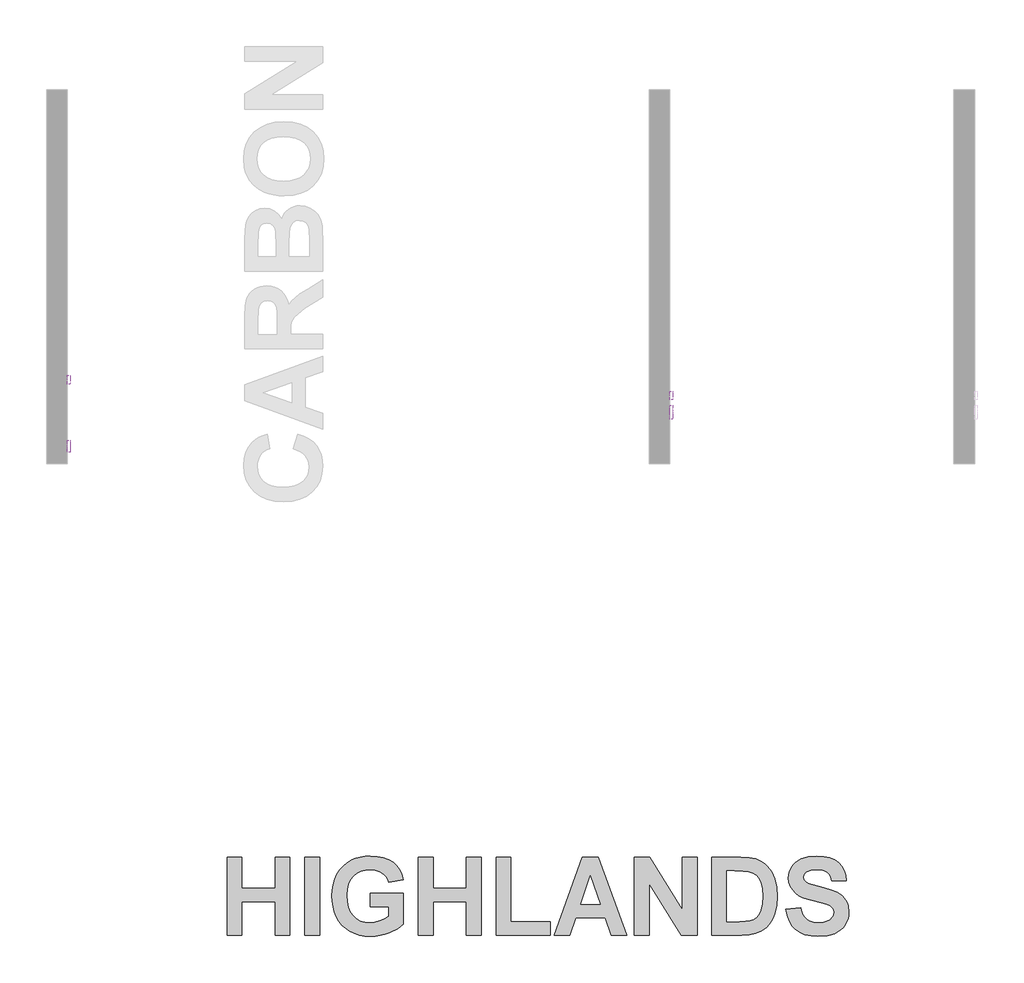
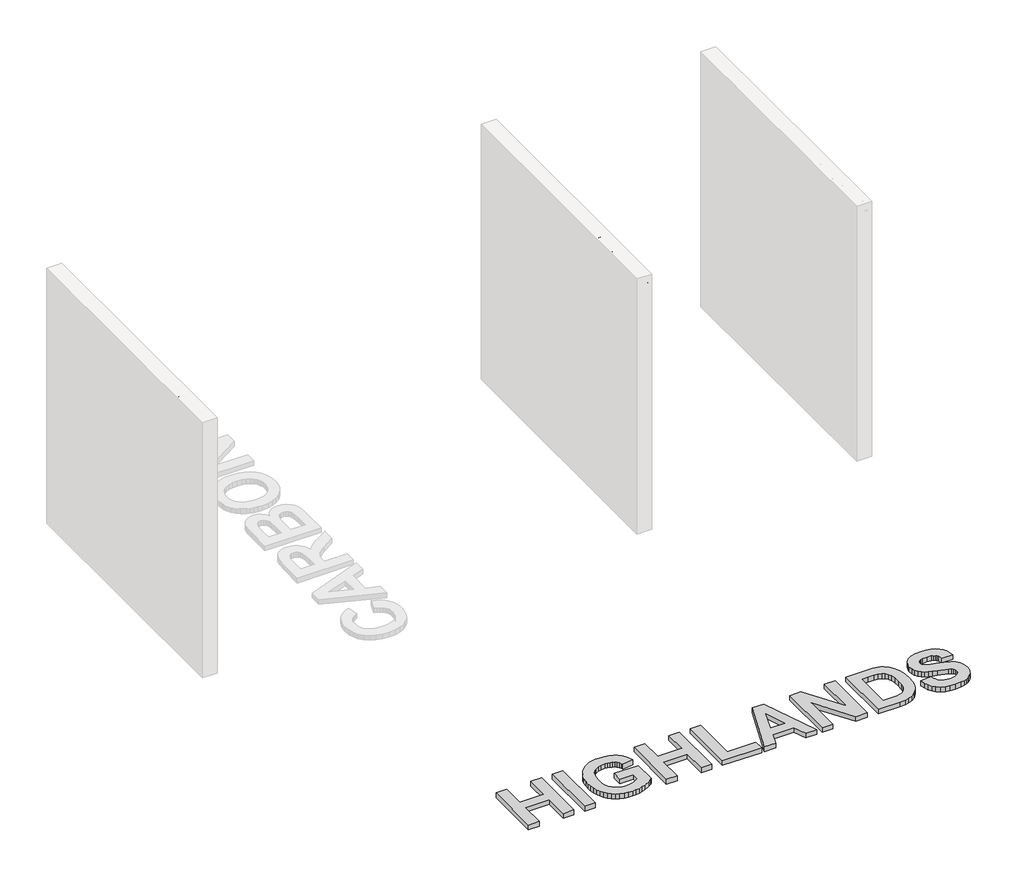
# One storey, part 3 of 10: 5 proxies.
"""IFC4 building model written with IfcOpenShell, lengths in millimetres."""

from ifc_helpers import new_model, si_unit, frame, origin, origin_with_axes, place, context, project, spatial, polyline, outline, extrude, element, save

model = new_model("IFC4")

# Units and contexts
model_context = context("Model", 3, world=origin())
ifc_project = project(units=[si_unit("LENGTHUNIT", "METRE", prefix="MILLI")], contexts=[model_context])

# Site, building, storey
site = spatial("IfcSite", under=ifc_project)
building = spatial("IfcBuilding", under=site)
storey = spatial("IfcBuildingStorey", under=building, Name="PORTOBELLO - SHOWROOM", Elevation=0.0)

# Proxies
placement = place(None, origin())
element("IfcBuildingElementProxy", 1, Name="10mm Arial", ObjectType="10mm Arial", at=placement, inside=storey, context=model_context, shape_type="SweptSolid", body=[
    extrude(outline(polyline([(-9137.3091823, 2554.1836467), (-9124.7521435, 2550.9462851), (-9130.5462849, 2536.3137787), (-9139.6391016, 2525.6237411), (-9151.5830037, 2519.0846386), (-9165.9304015, 2516.9049378), (-9180.4954628, 2518.5542754), (-9192.0622859, 2523.5022883), (-9200.928242, 2531.5772981), (-9207.3907024, 2542.6076265), (-9212.6514149, 2569.4630122), (-9211.1645585, 2584.110847), (-9206.7039893, 2596.7598562), (-9199.5026993, 2607.0084355), (-9189.7936803, 2614.4549802), (-9178.2789738, 2618.9891258), (-9165.6606214, 2620.5005077), (-9151.8926377, 2618.5446017), (-9140.5097556, 2612.6768839), (-9131.8675944, 2603.2591048), (-9126.3217734, 2590.6530151), (-9138.8788121, 2587.6609082), (-9149.179508, 2603.0996893), (-9166.1511307, 2607.9434689), (-9185.7960293, 2602.5723918), (-9196.8938028, 2588.1514175), (-9200.0943761, 2569.4875377), (-9196.3051916, 2547.8560763), (-9184.5084423, 2534.0359761), (-9167.1812003, 2529.4619766), (-9156.6996291, 2531.0193437), (-9147.9654974, 2535.691445), (-9141.3712127, 2543.4292297), (-9137.3091823, 2554.1836467)])), frame((-30275.742133, 0.0, 0.0), z_axis=(1.0, 0.0, 0.0), x_axis=(0.0, 1.0, 0.0)), (0.0, 0.0, 1.0), 20.0),
    extrude(outline(polyline([(-9061.9669497, 2527.8923467), (-9074.1438437, 2519.3820099), (-9087.596062, 2516.9049378), (-9098.0898959, 2518.3948599), (-9105.8307462, 2522.8646261), (-9110.6040151, 2529.6520489), (-9112.1951048, 2538.0949407), (-9109.7916091, 2548.0277546), (-9103.4763015, 2555.2382417), (-9094.6839218, 2559.3585201), (-9083.8191402, 2561.246981), (-9062.0405261, 2565.563463), (-9061.9669497, 2568.3593662), (-9065.4250404, 2577.6299925), (-9079.3064544, 2581.2597615), (-9092.010646, 2578.8440031), (-9098.0684361, 2570.2723526), (-9110.6254749, 2571.8419824), (-9105.1930841, 2584.1047156), (-9094.2547261, 2591.2906772), (-9077.6877736, 2593.8168003), (-9062.4697217, 2591.5849828), (-9053.8735458, 2585.9809138), (-9050.0230476, 2577.4583142), (-9049.4099109, 2566.4709053), (-9049.4099109, 2550.8481832), (-9048.7722488, 2529.0327809), (-9046.2706512, 2518.4745677), (-9058.82769, 2518.4745677), (-9061.9669497, 2527.8923467)]), holes=[polyline([(-9061.9669497, 2553.0064243), (-9082.2249849, 2549.1559261), (-9093.0284528, 2547.1203124), (-9097.9212833, 2543.8093744), (-9099.638066, 2538.9778575), (-9095.8979324, 2532.1843033), (-9084.9227862, 2529.4619766), (-9072.2185946, 2532.4663462), (-9064.0270889, 2539.738147), (-9062.0405261, 2549.4502317), (-9061.9669497, 2553.0064243)])]), frame((-30275.742133, 0.0, 0.0), z_axis=(1.0, 0.0, 0.0), x_axis=(0.0, 1.0, 0.0)), (0.0, 0.0, 1.0), 20.0),
    extrude(outline(polyline([(-9032.1439826, 2518.4745677), (-9032.1439826, 2592.2471704), (-9021.1565737, 2592.2471704), (-9021.1565737, 2581.3333379), (-9013.3574754, 2591.3887791), (-9005.5093262, 2593.8168003), (-8992.9032364, 2589.9417766), (-8997.0970912, 2578.6845875), (-9005.9262591, 2581.2597615), (-9013.0263816, 2578.7826894), (-9017.5513301, 2571.9155588), (-9019.5869438, 2557.24933), (-9019.5869438, 2518.4745677), (-9032.1439826, 2518.4745677)])), frame((-30275.742133, 0.0, 0.0), z_axis=(1.0, 0.0, 0.0), x_axis=(0.0, 1.0, 0.0)), (0.0, 0.0, 1.0), 20.0),
    extrude(outline(polyline([(-8972.4980485, 2518.4745677), (-8985.0550872, 2518.4745677), (-8985.0550872, 2618.9308778), (-8972.4980485, 2618.9308778), (-8972.4980485, 2581.6766944), (-8963.7056688, 2590.7817738), (-8952.7795735, 2593.8168003), (-8940.1980093, 2591.0822108), (-8930.4368737, 2583.3934771), (-8924.4403971, 2571.4373122), (-8922.2698934, 2556.464515), (-8924.5170392, 2539.7013588), (-8931.2584768, 2527.2301591), (-8941.1514368, 2519.4862431), (-8952.8531499, 2516.9049378), (-8964.0183685, 2520.2342699), (-8972.4980485, 2530.222266), (-8972.4980485, 2518.4745677)]), holes=[polyline([(-8972.4980485, 2555.8759038), (-8969.0644832, 2538.3156699), (-8962.4855268, 2531.6753999), (-8953.9322704, 2529.4619766), (-8946.6849951, 2531.0929201), (-8940.4923149, 2535.9857506), (-8936.2432778, 2544.1098114), (-8934.8269321, 2555.4344454), (-8936.1850298, 2566.9246264), (-8940.2593229, 2574.9567167), (-8946.2588651, 2579.6840003), (-8953.3927102, 2581.2597615), (-8960.6399855, 2579.628818), (-8966.8326657, 2574.7359875), (-8971.0817028, 2566.7590795), (-8972.4980485, 2555.8759038)])]), frame((-30275.742133, 0.0, 0.0), z_axis=(1.0, 0.0, 0.0), x_axis=(0.0, 1.0, 0.0)), (0.0, 0.0, 1.0), 20.0),
    extrude(outline(polyline([(-8911.2824845, 2555.360869), (-8908.5662891, 2573.1479635), (-8900.4177029, 2585.64982), (-8890.3499989, 2591.7750552), (-8878.2957322, 2593.8168003), (-8865.104097, 2591.3305311), (-8854.5673435, 2583.8717237), (-8847.6603591, 2572.0289891), (-8845.3580309, 2556.3909386), (-8849.4292583, 2534.0482388), (-8861.2873213, 2521.4053609), (-8878.2957322, 2516.9049378), (-8891.646783, 2519.3820099), (-8902.1712737, 2526.8132262), (-8909.0046818, 2538.9042811), (-8911.2824845, 2555.360869)]), holes=[polyline([(-8898.7254457, 2555.3853945), (-8897.2723118, 2544.0209065), (-8892.9129102, 2535.924437), (-8886.3523479, 2531.0775917), (-8878.2957322, 2529.4619766), (-8870.2759047, 2531.0867887), (-8863.7276052, 2535.9612252), (-8859.3682036, 2544.1649937), (-8857.9150697, 2555.777802), (-8859.3774006, 2566.8111961), (-8863.7643934, 2574.7973011), (-8870.32189, 2579.6441464), (-8878.2957322, 2581.2597615), (-8886.3523479, 2579.6502778), (-8892.9129102, 2574.8218266), (-8897.2723118, 2566.7437511), (-8898.7254457, 2555.3853945)])]), frame((-30275.742133, 0.0, 0.0), z_axis=(1.0, 0.0, 0.0), x_axis=(0.0, 1.0, 0.0)), (0.0, 0.0, 1.0), 20.0),
    extrude(outline(polyline([(-8831.2313623, 2518.4745677), (-8831.2313623, 2592.2471704), (-8818.6743235, 2592.2471704), (-8818.6743235, 2581.9464746), (-8809.0726035, 2590.8492188), (-8795.9637417, 2593.8168003), (-8784.1056787, 2591.4255673), (-8776.0122748, 2585.1470479), (-8772.2476157, 2575.9132098), (-8771.5854282, 2563.773104), (-8771.5854282, 2518.4745677), (-8784.1424669, 2518.4745677), (-8784.1424669, 2562.0808468), (-8785.5894694, 2573.1908831), (-8790.7030292, 2579.0647323), (-8799.3237306, 2581.2597615), (-8812.9476271, 2576.3301428), (-8817.2426494, 2569.1871007), (-8818.6743235, 2557.6172119), (-8818.6743235, 2518.4745677), (-8831.2313623, 2518.4745677)])), frame((-30275.742133, 0.0, 0.0), z_axis=(1.0, 0.0, 0.0), x_axis=(0.0, 1.0, 0.0)), (0.0, 0.0, 1.0), 20.0),
])
element("IfcBuildingElementProxy", 2, Name="10mm Arial", ObjectType="10mm Arial", at=placement, inside=storey, context=model_context, shape_type="SweptSolid", body=[
    extrude(outline(polyline([(-9212.6514149, 2553.0064243), (-9200.0943761, 2553.0064243), (-9196.0476742, 2540.4371228), (-9186.1639112, 2532.4908717), (-9171.1052749, 2529.4619766), (-9157.9841504, 2531.7551077), (-9149.5106018, 2538.0581525), (-9146.7269614, 2546.4826502), (-9148.811626, 2554.3185367), (-9157.3464883, 2560.0207077), (-9175.6302235, 2564.8154363), (-9195.3119102, 2571.0081166), (-9205.9927508, 2580.3523193), (-9209.5121552, 2592.8357816), (-9205.1588849, 2607.0482894), (-9192.4424306, 2617.0792051), (-9173.8276017, 2620.5005077), (-9153.9619739, 2616.9197896), (-9140.7182221, 2606.3983645), (-9135.7395524, 2590.6775406), (-9148.2965912, 2590.6775406), (-9150.601985, 2598.1700706), (-9155.4089765, 2603.5779359), (-9173.3370924, 2607.9434689), (-9191.3142592, 2603.6269868), (-9196.9551164, 2593.2036636), (-9192.9574654, 2584.4971231), (-9172.4541756, 2577.4828397), (-9150.2341031, 2571.1797948), (-9138.0817345, 2561.0017263), (-9134.1699226, 2546.8014813), (-9138.6703457, 2531.7796332), (-9151.6197919, 2520.8167497), (-9170.6147656, 2516.9049378), (-9193.0433046, 2521.123318), (-9207.2312868, 2533.8275096), (-9212.6514149, 2553.0064243)])), frame((-25926.2609603, 0.0, 0.0), z_axis=(1.0, 0.0, 0.0), x_axis=(0.0, 1.0, 0.0)), (0.0, 0.0, 1.0), 20.0),
    extrude(outline(polyline([(-9116.9039943, 2518.4745677), (-9116.9039943, 2592.2471704), (-9104.3469555, 2592.2471704), (-9104.3469555, 2581.9464746), (-9094.7452354, 2590.8492188), (-9081.6363737, 2593.8168003), (-9069.7783107, 2591.4255673), (-9061.6849068, 2585.1470479), (-9057.9202477, 2575.9132098), (-9057.2580601, 2563.773104), (-9057.2580601, 2518.4745677), (-9069.8150989, 2518.4745677), (-9069.8150989, 2562.0808468), (-9071.2621014, 2573.1908831), (-9076.3756612, 2579.0647323), (-9084.9963626, 2581.2597615), (-9098.6202591, 2576.3301428), (-9102.9152814, 2569.1871007), (-9104.3469555, 2557.6172119), (-9104.3469555, 2518.4745677), (-9116.9039943, 2518.4745677)])), frame((-25926.2609603, 0.0, 0.0), z_axis=(1.0, 0.0, 0.0), x_axis=(0.0, 1.0, 0.0)), (0.0, 0.0, 1.0), 20.0),
    extrude(outline(polyline([(-9043.1313915, 2555.360869), (-9040.4151961, 2573.1479635), (-9032.2666099, 2585.64982), (-9022.198906, 2591.7750552), (-9010.1446393, 2593.8168003), (-8996.9530041, 2591.3305311), (-8986.4162506, 2583.8717237), (-8979.5092661, 2572.0289891), (-8977.206938, 2556.3909386), (-8981.2781654, 2534.0482388), (-8993.1362284, 2521.4053609), (-9010.1446393, 2516.9049378), (-9023.49569, 2519.3820099), (-9034.0201808, 2526.8132262), (-9040.8535888, 2538.9042811), (-9043.1313915, 2555.360869)]), holes=[polyline([(-9030.5743528, 2555.3853945), (-9029.1212189, 2544.0209065), (-9024.7618172, 2535.924437), (-9018.201255, 2531.0775917), (-9010.1446393, 2529.4619766), (-9002.1248118, 2531.0867887), (-8995.5765123, 2535.9612252), (-8991.2171106, 2544.1649937), (-8989.7639768, 2555.777802), (-8991.2263077, 2566.8111961), (-8995.6133005, 2574.7973011), (-9002.170797, 2579.6441464), (-9010.1446393, 2581.2597615), (-9018.201255, 2579.6502778), (-9024.7618172, 2574.8218266), (-9029.1212189, 2566.7437511), (-9030.5743528, 2555.3853945)])]), frame((-25926.2609603, 0.0, 0.0), z_axis=(1.0, 0.0, 0.0), x_axis=(0.0, 1.0, 0.0)), (0.0, 0.0, 1.0), 20.0),
    extrude(outline(polyline([(-8950.8420617, 2518.4745677), (-8973.2828634, 2592.2471704), (-8960.2353153, 2592.2471704), (-8947.5065982, 2549.204977), (-8943.705151, 2533.8275096), (-8940.5904167, 2548.6408913), (-8930.4613991, 2592.2471704), (-8915.5008647, 2592.2471704), (-8905.420898, 2548.7635186), (-8902.6495203, 2535.3480885), (-8898.6763948, 2549.4992826), (-8885.9231523, 2592.2471704), (-8872.8265532, 2592.2471704), (-8895.4390332, 2518.4745677), (-8910.6202969, 2518.4745677), (-8920.2588051, 2561.7374903), (-8923.0547083, 2575.2264968), (-8935.4891197, 2518.4745677), (-8950.8420617, 2518.4745677)])), frame((-25926.2609603, 0.0, 0.0), z_axis=(1.0, 0.0, 0.0), x_axis=(0.0, 1.0, 0.0)), (0.0, 0.0, 1.0), 20.0),
])
element("IfcBuildingElementProxy", 3, Name="10mm Arial Narrow", ObjectType="10mm Arial Narrow", at=placement, inside=storey, context=model_context, shape_type="SweptSolid", body=[
    extrude(outline(polyline([(-8720.6286257, 2518.4745677), (-8720.6286257, 2619.1931714), (-8689.3317411, 2619.1931714), (-8673.0360395, 2617.3148507), (-8661.5630534, 2607.8344075), (-8657.273375, 2590.8152987), (-8659.0596834, 2578.7394731), (-8664.4186086, 2569.1130794), (-8674.1623974, 2562.811821), (-8689.1032966, 2560.7114015), (-8710.8816641, 2560.7114015), (-8710.8816641, 2518.4745677), (-8720.6286257, 2518.4745677)]), holes=[polyline([(-8710.8816641, 2572.0828568), (-8687.9103091, 2572.0828568), (-8672.0461137, 2576.613671), (-8667.0203366, 2590.2822617), (-8669.4951511, 2600.4480381), (-8675.47278, 2606.247988), (-8688.1387536, 2607.8217162), (-8710.8816641, 2607.8217162), (-8710.8816641, 2572.0828568)])]), frame((-30275.742133, 0.0, 0.0), z_axis=(1.0, 0.0, 0.0), x_axis=(0.0, 1.0, 0.0)), (0.0, 0.0, 1.0), 20.0),
    extrude(outline(polyline([(-8649.1509069, 2555.0256739), (-8647.1964381, 2571.6164494), (-8641.3330315, 2583.5685342), (-8632.4744647, 2590.7930888), (-8621.5345156, 2593.2012737), (-8610.72148, 2590.7930888), (-8601.8375306, 2583.5685342), (-8595.8979758, 2571.8068198), (-8593.9181242, 2555.7871552), (-8595.8630746, 2538.6252687), (-8601.6979257, 2526.4828135), (-8610.5469739, 2519.2582589), (-8621.5345156, 2516.8500741), (-8632.3951438, 2519.2646046), (-8641.2695747, 2526.5081962), (-8647.1805739, 2538.4666267), (-8649.1509069, 2555.0256739)]), holes=[polyline([(-8639.4039453, 2555.0510566), (-8638.0999084, 2542.4993052), (-8634.1877978, 2533.6280471), (-8628.3466011, 2528.3547886), (-8621.2553058, 2526.5970357), (-8614.5352326, 2528.3706528), (-8608.8431593, 2533.6915039), (-8604.9596042, 2542.5786262), (-8603.6650859, 2555.0510566), (-8604.9691228, 2567.5647339), (-8608.8812333, 2576.4233006), (-8614.7224301, 2581.6965592), (-8621.8137254, 2583.454312), (-8628.5813912, 2581.6870407), (-8634.263946, 2576.3852265), (-8638.1189455, 2567.5171413), (-8639.4039453, 2555.0510566)])]), frame((-30275.742133, 0.0, 0.0), z_axis=(1.0, 0.0, 0.0), x_axis=(0.0, 1.0, 0.0)), (0.0, 0.0, 1.0), 20.0),
    extrude(outline(polyline([(-8522.4404054, 2526.5970357), (-8520.8159118, 2516.8500741), (-8528.1768985, 2516.8500741), (-8536.4516628, 2518.9695306), (-8540.766724, 2524.7694804), (-8541.9343288, 2539.4153056), (-8541.9343288, 2581.8298184), (-8550.0567968, 2581.8298184), (-8550.0567968, 2585.0788056), (-8551.6812904, 2580.2053248), (-8559.2453388, 2581.8298184), (-8565.3244985, 2579.5073002), (-8569.1953621, 2573.0220171), (-8571.1752137, 2557.6147106), (-8571.1752137, 2518.4745677), (-8580.9221754, 2518.4745677), (-8580.9221754, 2591.5767801), (-8571.1752137, 2591.5767801), (-8571.1752137, 2581.8805838), (-8564.9310664, 2590.967595), (-8558.5346228, 2593.2012737), (-8550.0567968, 2591.5767801), (-8541.9343288, 2591.5767801), (-8541.9343288, 2607.8217162), (-8532.1873671, 2615.9441842), (-8532.1873671, 2591.5767801), (-8522.4404054, 2591.5767801), (-8522.4404054, 2581.8298184), (-8532.1873671, 2581.8298184), (-8532.1873671, 2537.1816269), (-8531.3243549, 2529.1860724), (-8526.7047012, 2526.5970357), (-8522.4404054, 2526.5970357)])), frame((-30275.742133, 0.0, 0.0), z_axis=(1.0, 0.0, 0.0), x_axis=(0.0, 1.0, 0.0)), (0.0, 0.0, 1.0), 20.0),
    extrude(outline(polyline([(-8515.942431, 2555.0256739), (-8513.9879621, 2571.6164494), (-8508.1245555, 2583.5685342), (-8499.2659888, 2590.7930888), (-8488.3260397, 2593.2012737), (-8477.5130041, 2590.7930888), (-8468.6290547, 2583.5685342), (-8462.6894999, 2571.8068198), (-8460.7096483, 2555.7871552), (-8462.6545987, 2538.6252687), (-8468.4894497, 2526.4828135), (-8477.3384979, 2519.2582589), (-8488.3260397, 2516.8500741), (-8499.1866678, 2519.2646046), (-8508.0610987, 2526.5081962), (-8513.9720979, 2538.4666267), (-8515.942431, 2555.0256739)]), holes=[polyline([(-8506.1954694, 2555.0510566), (-8504.8914325, 2542.4993052), (-8500.9793219, 2533.6280471), (-8495.1381252, 2528.3547886), (-8488.0468298, 2526.5970357), (-8481.3267567, 2528.3706528), (-8475.6346833, 2533.6915039), (-8471.7511283, 2542.5786262), (-8470.45661, 2555.0510566), (-8471.7606468, 2567.5647339), (-8475.6727574, 2576.4233006), (-8481.5139542, 2581.6965592), (-8488.6052495, 2583.454312), (-8495.3729153, 2581.6870407), (-8501.05547, 2576.3852265), (-8504.9104695, 2567.5171413), (-8506.1954694, 2555.0510566)])]), frame((-30275.742133, 0.0, 0.0), z_axis=(1.0, 0.0, 0.0), x_axis=(0.0, 1.0, 0.0)), (0.0, 0.0, 1.0), 20.0),
    extrude(outline(polyline([(-8437.9667378, 2518.4745677), (-8447.7136994, 2518.4745677), (-8447.7136994, 2619.1931714), (-8437.9667378, 2619.1931714), (-8437.9667378, 2583.7842873), (-8430.5676771, 2590.8660641), (-8421.3664437, 2593.2012737), (-8408.4847171, 2589.0004347), (-8399.2073356, 2576.2710043), (-8395.729904, 2555.5840935), (-8397.662163, 2539.1297501), (-8403.45894, 2526.927011), (-8411.8320623, 2519.3693083), (-8421.4933573, 2516.8500741), (-8430.8341955, 2519.4644935), (-8437.9667378, 2527.2316035), (-8437.9667378, 2518.4745677)]), holes=[polyline([(-8437.9667378, 2555.5840935), (-8435.8853553, 2538.3365403), (-8429.996566, 2529.6048872), (-8421.5441227, 2526.5970357), (-8415.6013951, 2528.3865169), (-8410.3630378, 2533.7549607), (-8405.4768656, 2555.1779701), (-8410.1853588, 2576.613671), (-8415.4300618, 2581.7441518), (-8421.7471844, 2583.454312), (-8427.7248132, 2581.6648308), (-8433.0171088, 2576.2963871), (-8437.9667378, 2555.5840935)])]), frame((-30275.742133, 0.0, 0.0), z_axis=(1.0, 0.0, 0.0), x_axis=(0.0, 1.0, 0.0)), (0.0, 0.0, 1.0), 20.0),
    extrude(outline(polyline([(-8343.7461085, 2541.2174782), (-8333.9991468, 2539.5929846), (-8337.6986772, 2529.706418), (-8343.5176641, 2522.5865671), (-8351.2213173, 2518.2841973), (-8360.5748469, 2516.8500741), (-8372.1684009, 2519.2646046), (-8381.3125232, 2526.5081962), (-8387.2520779, 2538.3143304), (-8389.2319295, 2554.4164888), (-8387.2425594, 2571.0834124), (-8381.2744491, 2583.2639417), (-8372.2604133, 2590.7169407), (-8361.1332666, 2593.2012737), (-8350.4503174, 2590.8026073), (-8341.7028001, 2583.6066083), (-8335.867949, 2571.8671037), (-8333.9229987, 2555.8379207), (-8333.9991468, 2552.5889335), (-8379.4849679, 2552.5889335), (-8373.4819563, 2533.1457756), (-8367.5519201, 2528.2342207), (-8360.4479334, 2526.5970357), (-8350.2694656, 2530.2521463), (-8343.7461085, 2541.2174782)]), holes=[polyline([(-8378.8250173, 2562.3358951), (-8343.7461085, 2562.3358951), (-8348.0104042, 2576.6009796), (-8353.8357367, 2581.7409789), (-8361.0571185, 2583.454312), (-8373.2662033, 2577.7432017), (-8378.8250173, 2562.3358951)])]), frame((-30275.742133, 0.0, 0.0), z_axis=(1.0, 0.0, 0.0), x_axis=(0.0, 1.0, 0.0)), (0.0, 0.0, 1.0), 20.0),
    extrude(outline(polyline([(-30255.742133, -8311.2562363), (-30255.742133, -8321.0031979), (-30275.742133, -8321.0031979), (-30275.742133, -8311.2562363), (-30255.742133, -8311.2562363)])), frame((0.0, 0.0, 2518.4745677), z_axis=(0.0, 0.0, 1.0), x_axis=(1.0, 0.0, 0.0)), (0.0, 0.0, 1.0), 100.7186038),
    extrude(outline(polyline([(-30255.742133, -8285.2643385), (-30255.742133, -8295.0113002), (-30275.742133, -8295.0113002), (-30275.742133, -8285.2643385), (-30255.742133, -8285.2643385)])), frame((0.0, 0.0, 2518.4745677), z_axis=(0.0, 0.0, 1.0), x_axis=(1.0, 0.0, 0.0)), (0.0, 0.0, 1.0), 100.7186038),
    extrude(outline(polyline([(-8273.8928833, 2555.0256739), (-8271.9384144, 2571.6164494), (-8266.0750078, 2583.5685342), (-8257.2164411, 2590.7930888), (-8246.2764919, 2593.2012737), (-8235.4634563, 2590.7930888), (-8226.5795069, 2583.5685342), (-8220.6399522, 2571.8068198), (-8218.6601006, 2555.7871552), (-8220.6050509, 2538.6252687), (-8226.439902, 2526.4828135), (-8235.2889502, 2519.2582589), (-8246.2764919, 2516.8500741), (-8257.1371201, 2519.2646046), (-8266.011551, 2526.5081962), (-8271.9225502, 2538.4666267), (-8273.8928833, 2555.0256739)]), holes=[polyline([(-8264.1459216, 2555.0510566), (-8262.8418848, 2542.4993052), (-8258.9297742, 2533.6280471), (-8253.0885774, 2528.3547886), (-8245.9972821, 2526.5970357), (-8239.2772089, 2528.3706528), (-8233.5851356, 2533.6915039), (-8229.7015806, 2542.5786262), (-8228.4070622, 2555.0510566), (-8229.7110991, 2567.5647339), (-8233.6232097, 2576.4233006), (-8239.4644064, 2581.6965592), (-8246.5557018, 2583.454312), (-8253.3233675, 2581.6870407), (-8259.0059223, 2576.3852265), (-8262.8609218, 2567.5171413), (-8264.1459216, 2555.0510566)])]), frame((-30275.742133, 0.0, 0.0), z_axis=(1.0, 0.0, 0.0), x_axis=(0.0, 1.0, 0.0)), (0.0, 0.0, 1.0), 20.0),
])
element("IfcBuildingElementProxy", 4, Name="10mm Arial Narrow", ObjectType="10mm Arial Narrow", at=placement, inside=storey, context=model_context, shape_type="SweptSolid", body=[
    extrude(outline(polyline([(-8835.6286257, 2518.4745677), (-8835.6286257, 2619.1931714), (-8804.3317411, 2619.1931714), (-8788.0360395, 2617.3148507), (-8776.5630534, 2607.8344075), (-8772.273375, 2590.8152987), (-8774.0596834, 2578.7394731), (-8779.4186086, 2569.1130794), (-8789.1623974, 2562.811821), (-8804.1032966, 2560.7114015), (-8825.8816641, 2560.7114015), (-8825.8816641, 2518.4745677), (-8835.6286257, 2518.4745677)]), holes=[polyline([(-8825.8816641, 2572.0828568), (-8802.9103091, 2572.0828568), (-8787.0461137, 2576.613671), (-8782.0203366, 2590.2822617), (-8784.4951511, 2600.4480381), (-8790.47278, 2606.247988), (-8803.1387536, 2607.8217162), (-8825.8816641, 2607.8217162), (-8825.8816641, 2572.0828568)])]), frame((-25926.2609603, 0.0, 0.0), z_axis=(1.0, 0.0, 0.0), x_axis=(0.0, 1.0, 0.0)), (0.0, 0.0, 1.0), 20.0),
    extrude(outline(polyline([(-8764.1509069, 2555.0256739), (-8762.1964381, 2571.6164494), (-8756.3330315, 2583.5685342), (-8747.4744647, 2590.7930888), (-8736.5345156, 2593.2012737), (-8725.72148, 2590.7930888), (-8716.8375306, 2583.5685342), (-8710.8979758, 2571.8068198), (-8708.9181242, 2555.7871552), (-8710.8630746, 2538.6252687), (-8716.6979257, 2526.4828135), (-8725.5469739, 2519.2582589), (-8736.5345156, 2516.8500741), (-8747.3951438, 2519.2646046), (-8756.2695747, 2526.5081962), (-8762.1805739, 2538.4666267), (-8764.1509069, 2555.0256739)]), holes=[polyline([(-8754.4039453, 2555.0510566), (-8753.0999084, 2542.4993052), (-8749.1877978, 2533.6280471), (-8743.3466011, 2528.3547886), (-8736.2553058, 2526.5970357), (-8729.5352326, 2528.3706528), (-8723.8431593, 2533.6915039), (-8719.9596042, 2542.5786262), (-8718.6650859, 2555.0510566), (-8719.9691228, 2567.5647339), (-8723.8812333, 2576.4233006), (-8729.7224301, 2581.6965592), (-8736.8137254, 2583.454312), (-8743.5813912, 2581.6870407), (-8749.263946, 2576.3852265), (-8753.1189455, 2567.5171413), (-8754.4039453, 2555.0510566)])]), frame((-25926.2609603, 0.0, 0.0), z_axis=(1.0, 0.0, 0.0), x_axis=(0.0, 1.0, 0.0)), (0.0, 0.0, 1.0), 20.0),
    extrude(outline(polyline([(-8637.4404054, 2526.5970357), (-8635.8159118, 2516.8500741), (-8643.1768985, 2516.8500741), (-8651.4516628, 2518.9695306), (-8655.766724, 2524.7694804), (-8656.9343288, 2539.4153056), (-8656.9343288, 2581.8298184), (-8665.0567968, 2581.8298184), (-8665.0567968, 2585.0788056), (-8666.6812904, 2580.2053248), (-8674.2453388, 2581.8298184), (-8680.3244985, 2579.5073002), (-8684.1953621, 2573.0220171), (-8686.1752137, 2557.6147106), (-8686.1752137, 2518.4745677), (-8695.9221754, 2518.4745677), (-8695.9221754, 2591.5767801), (-8686.1752137, 2591.5767801), (-8686.1752137, 2581.8805838), (-8679.9310664, 2590.967595), (-8673.5346228, 2593.2012737), (-8665.0567968, 2591.5767801), (-8656.9343288, 2591.5767801), (-8656.9343288, 2607.8217162), (-8647.1873671, 2615.9441842), (-8647.1873671, 2591.5767801), (-8637.4404054, 2591.5767801), (-8637.4404054, 2581.8298184), (-8647.1873671, 2581.8298184), (-8647.1873671, 2537.1816269), (-8646.3243549, 2529.1860724), (-8641.7047012, 2526.5970357), (-8637.4404054, 2526.5970357)])), frame((-25926.2609603, 0.0, 0.0), z_axis=(1.0, 0.0, 0.0), x_axis=(0.0, 1.0, 0.0)), (0.0, 0.0, 1.0), 20.0),
    extrude(outline(polyline([(-8630.942431, 2555.0256739), (-8628.9879621, 2571.6164494), (-8623.1245555, 2583.5685342), (-8614.2659888, 2590.7930888), (-8603.3260397, 2593.2012737), (-8592.5130041, 2590.7930888), (-8583.6290547, 2583.5685342), (-8577.6894999, 2571.8068198), (-8575.7096483, 2555.7871552), (-8577.6545987, 2538.6252687), (-8583.4894497, 2526.4828135), (-8592.3384979, 2519.2582589), (-8603.3260397, 2516.8500741), (-8614.1866678, 2519.2646046), (-8623.0610987, 2526.5081962), (-8628.9720979, 2538.4666267), (-8630.942431, 2555.0256739)]), holes=[polyline([(-8621.1954694, 2555.0510566), (-8619.8914325, 2542.4993052), (-8615.9793219, 2533.6280471), (-8610.1381252, 2528.3547886), (-8603.0468298, 2526.5970357), (-8596.3267567, 2528.3706528), (-8590.6346833, 2533.6915039), (-8586.7511283, 2542.5786262), (-8585.45661, 2555.0510566), (-8586.7606468, 2567.5647339), (-8590.6727574, 2576.4233006), (-8596.5139542, 2581.6965592), (-8603.6052495, 2583.454312), (-8610.3729153, 2581.6870407), (-8616.05547, 2576.3852265), (-8619.9104695, 2567.5171413), (-8621.1954694, 2555.0510566)])]), frame((-25926.2609603, 0.0, 0.0), z_axis=(1.0, 0.0, 0.0), x_axis=(0.0, 1.0, 0.0)), (0.0, 0.0, 1.0), 20.0),
    extrude(outline(polyline([(-8552.9667378, 2518.4745677), (-8562.7136994, 2518.4745677), (-8562.7136994, 2619.1931714), (-8552.9667378, 2619.1931714), (-8552.9667378, 2583.7842873), (-8545.567677, 2590.8660641), (-8536.3664437, 2593.2012737), (-8523.4847171, 2589.0004347), (-8514.2073356, 2576.2710043), (-8510.729904, 2555.5840935), (-8512.662163, 2539.1297501), (-8518.45894, 2526.927011), (-8526.8320623, 2519.3693083), (-8536.4933573, 2516.8500741), (-8545.8341955, 2519.4644935), (-8552.9667378, 2527.2316035), (-8552.9667378, 2518.4745677)]), holes=[polyline([(-8552.9667378, 2555.5840935), (-8550.8853553, 2538.3365403), (-8544.996566, 2529.6048872), (-8536.5441227, 2526.5970357), (-8530.6013951, 2528.3865169), (-8525.3630378, 2533.7549607), (-8520.4768656, 2555.1779701), (-8525.1853588, 2576.613671), (-8530.4300618, 2581.7441518), (-8536.7471844, 2583.454312), (-8542.7248132, 2581.6648308), (-8548.0171088, 2576.2963871), (-8552.9667378, 2555.5840935)])]), frame((-25926.2609603, 0.0, 0.0), z_axis=(1.0, 0.0, 0.0), x_axis=(0.0, 1.0, 0.0)), (0.0, 0.0, 1.0), 20.0),
    extrude(outline(polyline([(-8458.7461085, 2541.2174782), (-8448.9991468, 2539.5929846), (-8452.6986772, 2529.706418), (-8458.5176641, 2522.5865671), (-8466.2213173, 2518.2841973), (-8475.5748469, 2516.8500741), (-8487.1684009, 2519.2646046), (-8496.3125232, 2526.5081962), (-8502.2520779, 2538.3143304), (-8504.2319295, 2554.4164888), (-8502.2425594, 2571.0834124), (-8496.2744491, 2583.2639417), (-8487.2604133, 2590.7169407), (-8476.1332666, 2593.2012737), (-8465.4503174, 2590.8026073), (-8456.7028001, 2583.6066083), (-8450.867949, 2571.8671037), (-8448.9229987, 2555.8379207), (-8448.9991468, 2552.5889335), (-8494.4849679, 2552.5889335), (-8488.4819563, 2533.1457756), (-8482.5519201, 2528.2342207), (-8475.4479334, 2526.5970357), (-8465.2694656, 2530.2521463), (-8458.7461085, 2541.2174782)]), holes=[polyline([(-8493.8250173, 2562.3358951), (-8458.7461085, 2562.3358951), (-8463.0104042, 2576.6009796), (-8468.8357367, 2581.7409789), (-8476.0571185, 2583.454312), (-8488.2662033, 2577.7432017), (-8493.8250173, 2562.3358951)])]), frame((-25926.2609603, 0.0, 0.0), z_axis=(1.0, 0.0, 0.0), x_axis=(0.0, 1.0, 0.0)), (0.0, 0.0, 1.0), 20.0),
    extrude(outline(polyline([(-25906.2609603, -8426.2562363), (-25906.2609603, -8436.0031979), (-25926.2609603, -8436.0031979), (-25926.2609603, -8426.2562363), (-25906.2609603, -8426.2562363)])), frame((0.0, 0.0, 2518.4745677), z_axis=(0.0, 0.0, 1.0), x_axis=(1.0, 0.0, 0.0)), (0.0, 0.0, 1.0), 100.7186038),
    extrude(outline(polyline([(-25906.2609603, -8400.2643385), (-25906.2609603, -8410.0113002), (-25926.2609603, -8410.0113002), (-25926.2609603, -8400.2643385), (-25906.2609603, -8400.2643385)])), frame((0.0, 0.0, 2518.4745677), z_axis=(0.0, 0.0, 1.0), x_axis=(1.0, 0.0, 0.0)), (0.0, 0.0, 1.0), 100.7186038),
    extrude(outline(polyline([(-8388.8928833, 2555.0256739), (-8386.9384144, 2571.6164494), (-8381.0750078, 2583.5685342), (-8372.2164411, 2590.7930888), (-8361.2764919, 2593.2012737), (-8350.4634563, 2590.7930888), (-8341.5795069, 2583.5685342), (-8335.6399522, 2571.8068198), (-8333.6601006, 2555.7871552), (-8335.6050509, 2538.6252687), (-8341.439902, 2526.4828135), (-8350.2889502, 2519.2582589), (-8361.2764919, 2516.8500741), (-8372.1371201, 2519.2646046), (-8381.011551, 2526.5081962), (-8386.9225502, 2538.4666267), (-8388.8928833, 2555.0256739)]), holes=[polyline([(-8379.1459216, 2555.0510566), (-8377.8418848, 2542.4993052), (-8373.9297742, 2533.6280471), (-8368.0885774, 2528.3547886), (-8360.9972821, 2526.5970357), (-8354.2772089, 2528.3706528), (-8348.5851356, 2533.6915039), (-8344.7015806, 2542.5786262), (-8343.4070622, 2555.0510566), (-8344.7110991, 2567.5647339), (-8348.6232097, 2576.4233006), (-8354.4644064, 2581.6965592), (-8361.5557018, 2583.454312), (-8368.3233675, 2581.6870407), (-8374.0059223, 2576.3852265), (-8377.8609218, 2567.5171413), (-8379.1459216, 2555.0510566)])]), frame((-25926.2609603, 0.0, 0.0), z_axis=(1.0, 0.0, 0.0), x_axis=(0.0, 1.0, 0.0)), (0.0, 0.0, 1.0), 20.0),
])
element("IfcBuildingElementProxy", 5, Name="550mm Arial", ObjectType="550mm Arial", at=placement, inside=storey, context=model_context, shape_type="SweptSolid", body=[
    extrude(outline(polyline([(-29123.1507527, -12697.8860812), (-29123.1507527, -12136.7434112), (-29016.2664346, -12136.7434112), (-29016.2664346, -12359.4190739), (-28775.7767189, -12359.4190739), (-28775.7767189, -12136.7434112), (-28668.8924008, -12136.7434112), (-28668.8924008, -12697.8860812), (-28775.7767189, -12697.8860812), (-28775.7767189, -12457.3963655), (-29016.2664346, -12457.3963655), (-29016.2664346, -12697.8860812), (-29123.1507527, -12697.8860812)])), origin_with_axes(), (0.0, 0.0, 1.0), 50.0),
    extrude(outline(polyline([(-28562.0080827, -12697.8860812), (-28562.0080827, -12136.7434112), (-28455.1237646, -12136.7434112), (-28455.1237646, -12697.8860812), (-28562.0080827, -12697.8860812)])), origin_with_axes(), (0.0, 0.0, 1.0), 50.0),
    extrude(outline(polyline([(-28089.9356778, -12493.0244715), (-28089.9356778, -12395.04718), (-27849.4459621, -12395.04718), (-27849.4459621, -12618.836221), (-27868.9474791, -12635.776098), (-27892.3806133, -12651.6634847), (-27951.0417332, -12680.2807866), (-27984.4082895, -12691.8799271), (-28017.9836043, -12700.1650274), (-28051.7676775, -12705.1360877), (-28085.7605091, -12706.7931077), (-28127.6600664, -12704.4880667), (-28166.7935745, -12697.5729436), (-28203.1610333, -12686.0477384), (-28236.7624429, -12669.9124511), (-28266.9802262, -12649.4932668), (-28293.1968061, -12625.1163705), (-28315.4121828, -12596.7817623), (-28333.6263561, -12564.489442), (-28347.8132314, -12529.4658656), (-28357.9467137, -12492.9374889), (-28364.026803, -12454.9043117), (-28366.0534995, -12415.3663342), (-28363.7615059, -12372.8796438), (-28356.885525, -12332.8197702), (-28345.4255568, -12295.1867133), (-28329.3816013, -12259.9804733), (-28308.9189257, -12227.9664977), (-28284.2027969, -12199.910234), (-28255.2332151, -12175.8116823), (-28222.0101802, -12155.6708426), (-28193.4276713, -12143.4932673), (-28161.5398206, -12134.7949992), (-28126.3466279, -12129.5760383), (-28087.8480934, -12127.8363847), (-28038.5767539, -12130.6459253), (-27995.00278, -12139.0745471), (-27957.1261717, -12153.12225), (-27924.946929, -12172.7890341), (-27898.2301986, -12197.413831), (-27876.7411273, -12226.3355724), (-27860.4797151, -12259.5542582), (-27849.4459621, -12297.0698884), (-27956.3302802, -12314.8839414), (-27963.9586613, -12295.3084891), (-27974.3182985, -12277.9163021), (-27987.409192, -12262.7073803), (-28003.2313416, -12249.6817239), (-28021.4890063, -12239.2394531), (-28041.8864449, -12231.7806882), (-28064.4236575, -12227.3054293), (-28089.100644, -12225.8136763), (-28126.0769816, -12228.7275961), (-28159.0695124, -12237.4693555), (-28188.0782365, -12252.0389546), (-28213.1031537, -12272.4363932), (-28233.2570408, -12298.5746887), (-28247.6526745, -12330.3668586), (-28256.2900547, -12367.8129026), (-28259.1691814, -12410.9128209), (-28256.3074512, -12457.2963354), (-28247.7222606, -12497.4953813), (-28233.4136097, -12531.5099586), (-28213.3814983, -12559.3400673), (-28188.7045118, -12580.9857074), (-28160.4612353, -12596.4468789), (-28128.651669, -12605.7235818), (-28093.2758127, -12608.8158161), (-28056.586518, -12605.4234916), (-28019.7232579, -12595.2465179), (-27985.3998921, -12580.2333072), (-27956.3302802, -12562.3322715), (-27956.3302802, -12493.0244715), (-28089.9356778, -12493.0244715)])), origin_with_axes(), (0.0, 0.0, 1.0), 50.0),
    extrude(outline(polyline([(-27742.561644, -12697.8860812), (-27742.561644, -12136.7434112), (-27635.6773259, -12136.7434112), (-27635.6773259, -12359.4190739), (-27395.1876102, -12359.4190739), (-27395.1876102, -12136.7434112), (-27288.3032921, -12136.7434112), (-27288.3032921, -12697.8860812), (-27395.1876102, -12697.8860812), (-27395.1876102, -12457.3963655), (-27635.6773259, -12457.3963655), (-27635.6773259, -12697.8860812), (-27742.561644, -12697.8860812)])), origin_with_axes(), (0.0, 0.0, 1.0), 50.0),
    extrude(outline(polyline([(-27181.418974, -12697.8860812), (-27181.418974, -12136.7434112), (-27074.5346559, -12136.7434112), (-27074.5346559, -12599.9087896), (-26789.5098077, -12599.9087896), (-26789.5098077, -12697.8860812), (-27181.418974, -12697.8860812)])), origin_with_axes(), (0.0, 0.0, 1.0), 50.0),
    extrude(outline(polyline([(-26237.2741642, -12697.8860812), (-26349.5862016, -12697.8860812), (-26393.564645, -12573.1877101), (-26605.5240414, -12573.1877101), (-26648.9457956, -12697.8860812), (-26762.7887281, -12697.8860812), (-26557.9271185, -12136.7434112), (-26444.0841859, -12136.7434112), (-26237.2741642, -12697.8860812)]), holes=[polyline([(-26427.8010281, -12475.2104185), (-26500.0314462, -12270.3488088), (-26571.2876582, -12475.2104185), (-26427.8010281, -12475.2104185)])]), origin_with_axes(), (0.0, 0.0, 1.0), 50.0),
    extrude(outline(polyline([(-26183.8320052, -12697.8860812), (-26183.8320052, -12136.7434112), (-26071.7983124, -12136.7434112), (-25836.4579714, -12514.4570041), (-25836.4579714, -12136.7434112), (-25729.5736533, -12136.7434112), (-25729.5736533, -12697.8860812), (-25845.0866533, -12697.8860812), (-26076.9476871, -12325.7393799), (-26076.9476871, -12697.8860812), (-26183.8320052, -12697.8860812)])), origin_with_axes(), (0.0, 0.0, 1.0), 50.0),
    extrude(outline(polyline([(-25622.6893352, -12136.7434112), (-25414.9051074, -12136.7434112), (-25352.9734388, -12139.4224778), (-25307.7424448, -12147.4596775), (-25283.8570006, -12156.170993), (-25261.7460032, -12167.691849), (-25241.4094524, -12182.0222457), (-25222.8473484, -12199.1621829), (-25191.7249452, -12240.4267667), (-25169.0572586, -12290.0416878), (-25155.2270124, -12350.1119271), (-25150.6169303, -12422.7424655), (-25154.9312712, -12487.1792354), (-25167.8742941, -12542.1522896), (-25179.582163, -12571.3088842), (-25193.5515815, -12597.5428607), (-25209.7825497, -12620.8542191), (-25228.2750676, -12641.2429595), (-25262.9985538, -12666.7810746), (-25308.1599616, -12686.0564366), (-25352.1036119, -12694.9286701), (-25408.7815267, -12697.8860812), (-25622.6893352, -12697.8860812), (-25622.6893352, -12136.7434112)]), holes=[polyline([(-25515.8050171, -12234.7207028), (-25515.8050171, -12599.9087896), (-25424.78634, -12599.9087896), (-25380.8078966, -12598.5866529), (-25351.0250267, -12594.6202426), (-25323.9038268, -12585.5566473), (-25301.8276225, -12571.7264011), (-25284.0657591, -12550.3112651), (-25269.8875821, -12518.4930005), (-25260.5978318, -12474.7233155), (-25257.5012484, -12417.4539185), (-25260.5978318, -12360.9847622), (-25269.8875821, -12319.3374546), (-25284.7268274, -12288.8587233), (-25304.471896, -12265.8952956), (-25329.6794768, -12249.8208962), (-25360.9062592, -12240.0092498), (-25398.7263288, -12236.0428396), (-25460.9711352, -12234.7207028), (-25515.8050171, -12234.7207028)])]), origin_with_axes(), (0.0, 0.0, 1.0), 50.0),
    extrude(outline(polyline([(-25088.2677447, -12510.8385246), (-24981.3834266, -12501.931498), (-24974.9119152, -12527.660975), (-24965.7961302, -12549.7371794), (-24954.0360718, -12568.1601112), (-24939.6317399, -12582.9297703), (-24922.5396431, -12594.2549154), (-24902.7162902, -12602.3443047), (-24880.1616811, -12607.1979383), (-24854.8758158, -12608.8158161), (-24828.3026068, -12607.384951), (-24805.2261016, -12603.0923557), (-24785.6463002, -12595.9380303), (-24769.5632025, -12585.9219746), (-24757.0202999, -12573.9922999), (-24748.0610838, -12561.0971175), (-24742.6855542, -12547.2364273), (-24740.8937109, -12532.4102294), (-24743.8685186, -12514.2308491), (-24752.7929417, -12498.9392938), (-24769.1630822, -12486.0136675), (-24794.4750423, -12474.9320739), (-24887.1637869, -12451.1336125), (-24930.1854208, -12439.5214246), (-24966.2832333, -12426.5349104), (-24995.4572244, -12412.1740698), (-25017.7073941, -12396.4389028), (-25040.7838993, -12372.075054), (-25057.2671173, -12345.1887074), (-25067.1570481, -12315.779863), (-25070.4536917, -12283.8485209), (-25064.3996971, -12242.514351), (-25046.2377134, -12203.9636269), (-25032.790191, -12186.4888063), (-25016.6636019, -12171.2233459), (-24997.8579464, -12158.1672455), (-24976.3732242, -12147.3205052), (-24926.0276486, -12132.7074148), (-24866.2879435, -12127.8363847), (-24816.8687334, -12130.8720803), (-24773.9645262, -12139.979167), (-24737.5753217, -12155.1576447), (-24707.70112, -12176.4075137), (-24684.2462401, -12202.7197746), (-24667.1150011, -12233.0854284), (-24656.3074031, -12267.5044752), (-24651.8234459, -12305.9769149), (-24758.7077639, -12305.9769149), (-24770.520012, -12269.2528271), (-24779.6488443, -12255.3921369), (-24790.9261489, -12244.5323492), (-24804.8216321, -12236.3429298), (-24821.8050006, -12230.4933445), (-24865.0353929, -12225.8136763), (-24910.5447314, -12230.7890856), (-24929.1242321, -12237.0083473), (-24944.9202869, -12245.7153137), (-24958.9071019, -12260.6763348), (-24963.5693736, -12279.9516968), (-24959.3246188, -12298.1484736), (-24946.5903543, -12313.4922185), (-24931.9555183, -12322.4035941), (-24909.622715, -12331.4628403), (-24841.8632067, -12350.0249444), (-24769.545806, -12369.3350995), (-24718.9044892, -12389.5498745), (-24683.4155555, -12414.0268009), (-24656.5553037, -12446.1234101), (-24646.6914677, -12465.1291258), (-24639.6458706, -12486.2398224), (-24634.0093928, -12534.7761583), (-24635.6751112, -12558.3310682), (-24640.6722662, -12581.1205306), (-24649.0008579, -12603.1445454), (-24660.6608862, -12624.4031125), (-24675.3696575, -12643.9394226), (-24692.8444781, -12660.7966661), (-24713.0853479, -12674.9748431), (-24736.092267, -12686.4739535), (-24761.9826619, -12695.3635835), (-24790.8739593, -12701.7133192), (-24857.6592616, -12706.7931077), (-24907.6047168, -12703.6660803), (-24951.3917983, -12694.2849982), (-24989.020506, -12678.6498614), (-25020.4908399, -12656.7606698), (-25046.0202567, -12628.8783714), (-25065.8262131, -12595.2639145), (-25079.9087091, -12555.9172988), (-25088.2677447, -12510.8385246)])), origin_with_axes(), (0.0, 0.0, 1.0), 50.0),
])

save(model, "model.ifc")
